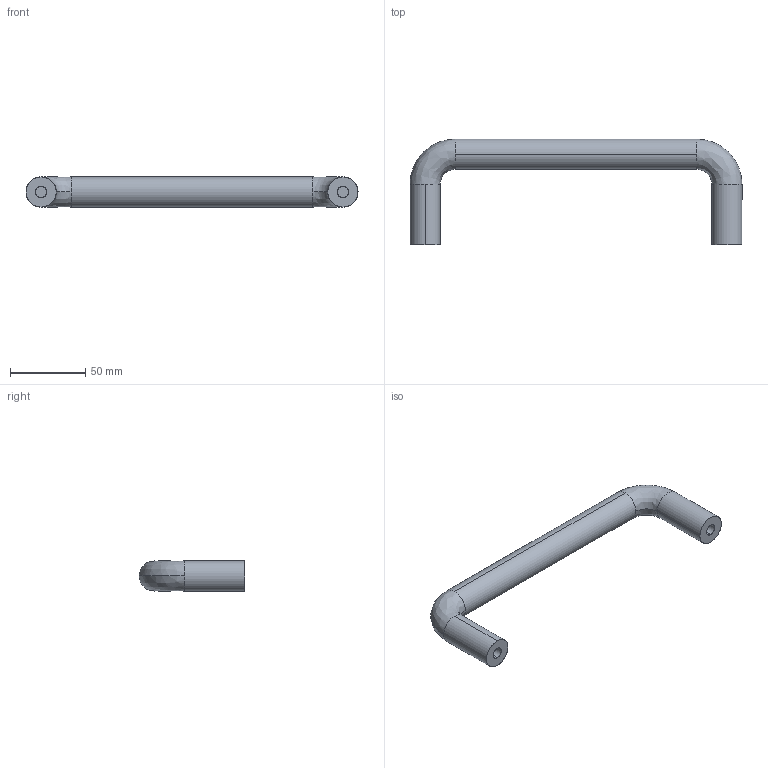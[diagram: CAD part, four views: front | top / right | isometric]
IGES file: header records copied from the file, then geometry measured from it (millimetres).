
Start section: SolidWorks IGES file using analytic representation for surfaces
Global section: file name: D:\由鑫國際內部資料\內部資料\3D圖檔\MS-749\P=200.IGS,15HSolidWorks; native system: 2008; preprocessor: SolidWorks 2008; author: Administrator; date: 091201.112633; units: millimetre
Bounding box: 220 x 70 x 20 mm (x, y, z)
Surface area: 20365.9 mm2 (no closed solid volume)
Topology: 0 solids, 0 shells, 18 faces, 260 edges, 260 vertices
Faces by surface type: revolution 10, bspline 8
